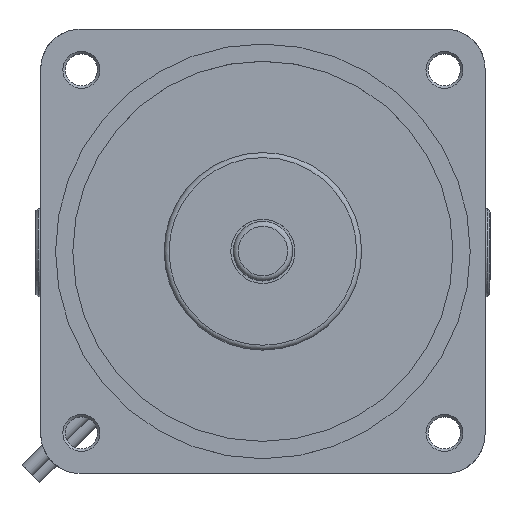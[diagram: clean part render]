
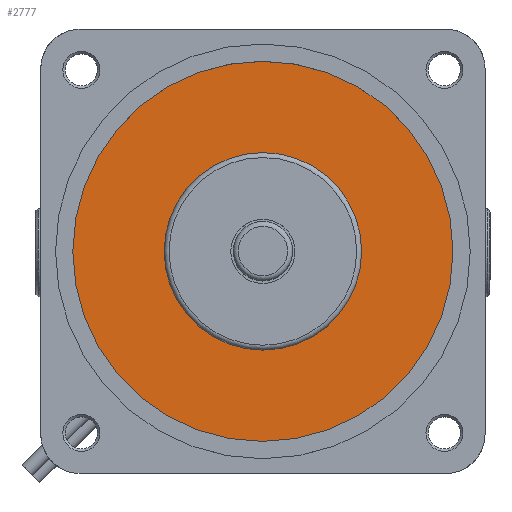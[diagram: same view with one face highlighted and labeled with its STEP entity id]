
A CAD part, top view. The second image highlights one B-rep face of the part: STEP entity #2777.
In plain terms, the highlighted planar face has unit normal (0, 0, 1).
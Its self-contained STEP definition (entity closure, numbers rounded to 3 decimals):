
#2743=CARTESIAN_POINT('',(38.5,0.,7.0));
#2744=VERTEX_POINT('',#2743);
#2745=CARTESIAN_POINT('',(0.0,0.0,7.0));
#2746=DIRECTION('',(0.0,0.0,1.0));
#2747=DIRECTION('',(-1.0,0.0,0.0));
#2748=AXIS2_PLACEMENT_3D('',#2745,#2746,#2747);
#2749=CIRCLE('',#2748,38.5);
#2750=EDGE_CURVE('',#2744,#2744,#2749,.T.);
#2758=CARTESIAN_POINT('',(0.0,0.0,7.0));
#2759=DIRECTION('',(0.0,0.0,-1.0));
#2760=DIRECTION('',(-1.0,0.0,0.0));
#2761=AXIS2_PLACEMENT_3D('',#2758,#2759,#2760);
#2762=PLANE('',#2761);
#2763=ORIENTED_EDGE('',*,*,#2750,.T.);
#2764=EDGE_LOOP('',(#2763));
#2765=FACE_OUTER_BOUND('',#2764,.T.);
#2766=CARTESIAN_POINT('',(20.0,0.,7.0));
#2767=VERTEX_POINT('',#2766);
#2768=CARTESIAN_POINT('',(0.0,0.0,7.0));
#2769=DIRECTION('',(0.0,0.0,-1.0));
#2770=DIRECTION('',(-1.0,0.0,0.0));
#2771=AXIS2_PLACEMENT_3D('',#2768,#2769,#2770);
#2772=CIRCLE('',#2771,20.0);
#2773=EDGE_CURVE('',#2767,#2767,#2772,.T.);
#2774=ORIENTED_EDGE('',*,*,#2773,.T.);
#2775=EDGE_LOOP('',(#2774));
#2776=FACE_BOUND('',#2775,.T.);
#2777=ADVANCED_FACE('',(#2765,#2776),#2762,.F.);
